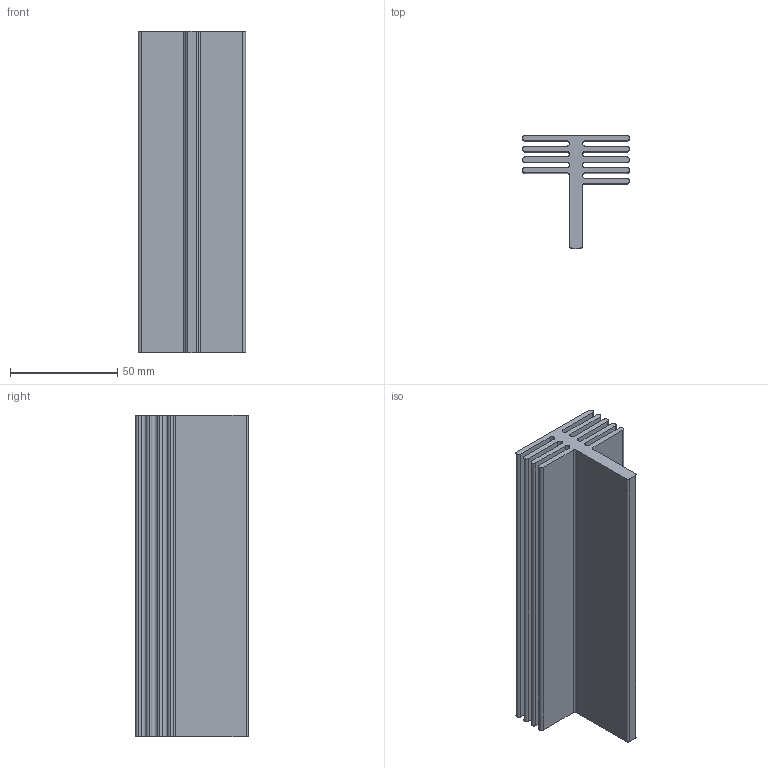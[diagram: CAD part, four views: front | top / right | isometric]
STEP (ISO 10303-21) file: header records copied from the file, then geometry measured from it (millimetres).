
FILE_DESCRIPTION (( 'STEP AP203' ), '1' );
FILE_NAME ('PR 268-150.step', '2002-10-21T08:45:42', ( 'Wolfgang Müller' ), ( 'DPS' ), 'SwSTEP 2.0', 'SolidWorks 2002264', '' );
FILE_SCHEMA (( 'CONFIG_CONTROL_DESIGN' ));
Length unit declared in the file: millimetre
Products named in the file (1): PR 268-150
Bounding box: 50 x 52.5 x 150 mm (x, y, z)
Volume: 121298.8 mm3; surface area: 75734.6 mm2
Topology: 1 solids, 1 shells, 50 faces, 144 edges, 96 vertices
Faces by surface type: cylinder 28, plane 22
Entity records: 1741 total; most frequent: DIRECTION 302, CARTESIAN_POINT 291, ORIENTED_EDGE 288, EDGE_CURVE 144, AXIS2_PLACEMENT_3D 107, VERTEX_POINT 96, LINE 88, VECTOR 88
